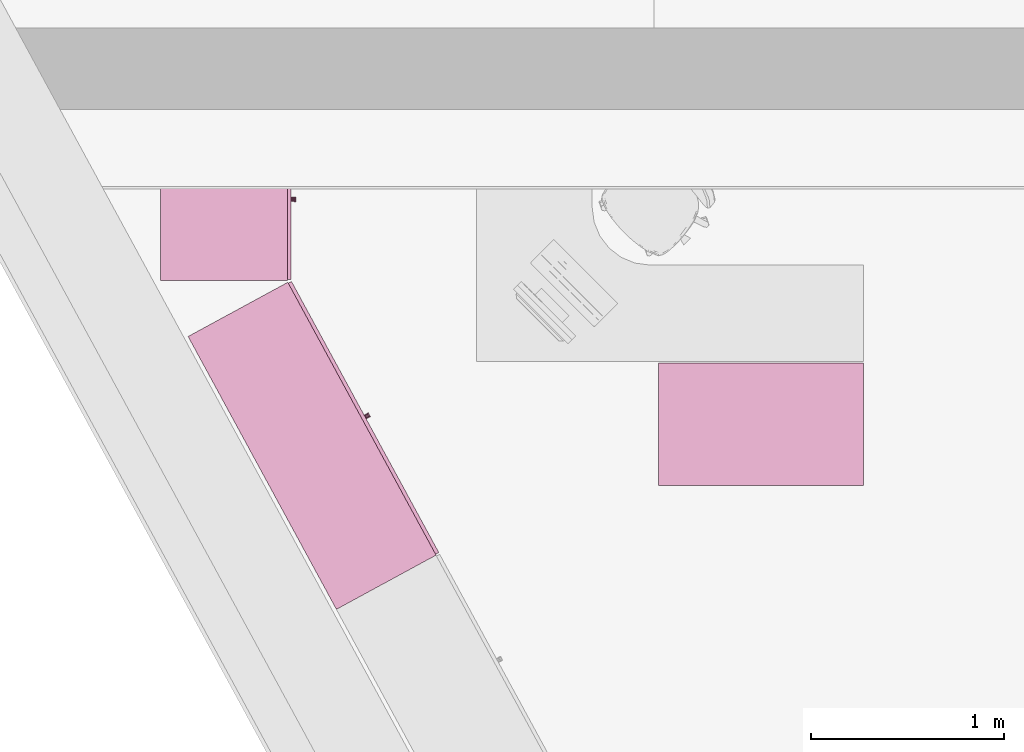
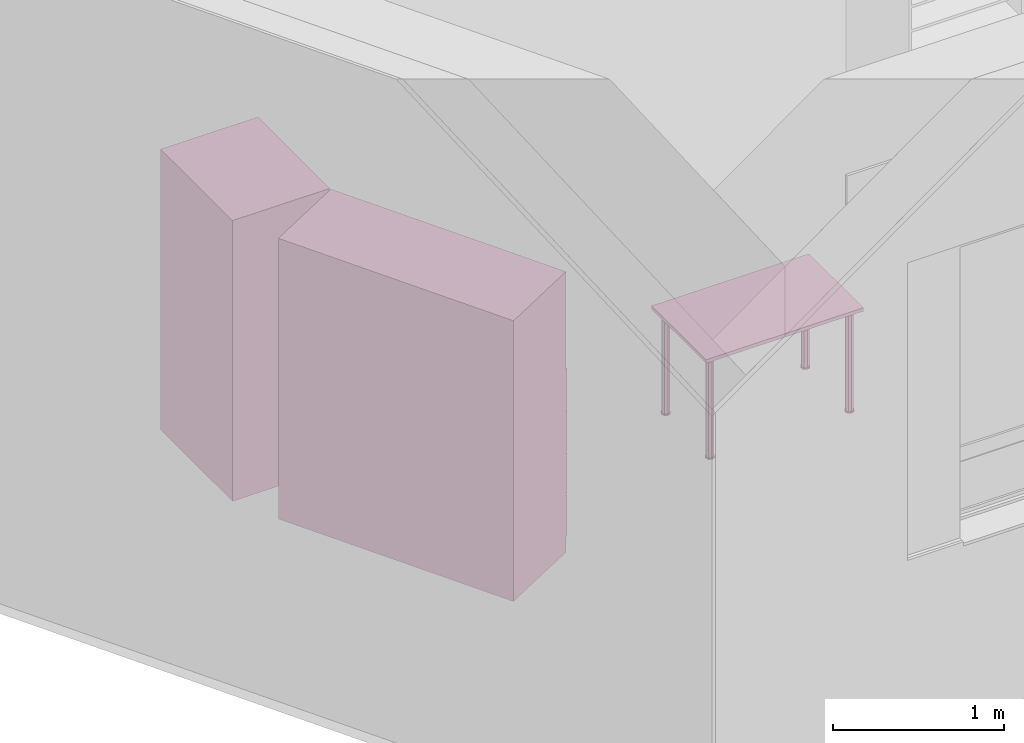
# One storey, part 151 of 194: 3 furnishings.
"""IFC2X3 building model written with IfcOpenShell, lengths in millimetres."""

from ifc_helpers import new_model, entity, si_unit, converted_unit, derived_unit, money_unit, direction, frame, origin_with_axes, place, context, subcontext, project, spatial, faceted_brep, type_object, element, save


model = new_model("IFC2X3")

# Units and contexts
model_context = context("Model", 3, precision=1e-05, world=origin_with_axes(), true_north=direction((0.0, 1.0)))
body_context = subcontext(model_context, "Body", "Model", "MODEL_VIEW")
ifc_project = project(units=[si_unit("LENGTHUNIT", "METRE", prefix="MILLI"), si_unit("AREAUNIT", "SQUARE_METRE"), si_unit("VOLUMEUNIT", "CUBIC_METRE"), converted_unit("PLANEANGLEUNIT", "DEGREE", entity("IfcPlaneAngleMeasure", 0.0174532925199), si_unit("PLANEANGLEUNIT", "RADIAN"), dimensions=[0, 0, 0, 0, 0, 0, 0]), si_unit("SOLIDANGLEUNIT", "STERADIAN"), money_unit("EUR"), converted_unit("TIMEUNIT", "Year", entity("IfcTimeMeasure", 31556926.0), si_unit("TIMEUNIT", "SECOND"), dimensions=[0, 0, 1, 0, 0, 0, 0]), si_unit("MASSUNIT", "GRAM", prefix="KILO"), si_unit("THERMODYNAMICTEMPERATUREUNIT", "DEGREE_CELSIUS"), si_unit("LUMINOUSINTENSITYUNIT", "LUMEN"), si_unit("ENERGYUNIT", "JOULE", prefix="MEGA"), derived_unit("THERMALCONDUCTANCEUNIT", [(si_unit("POWERUNIT", "WATT"), 1), (si_unit("LENGTHUNIT", "METRE"), -1), (si_unit("THERMODYNAMICTEMPERATUREUNIT", "KELVIN"), -1)]), derived_unit("SPECIFICHEATCAPACITYUNIT", [(si_unit("ENERGYUNIT", "JOULE"), 1), (si_unit("MASSUNIT", "GRAM", prefix="KILO"), -1), (si_unit("THERMODYNAMICTEMPERATUREUNIT", "KELVIN"), -1)]), derived_unit("MASSDENSITYUNIT", [(si_unit("MASSUNIT", "GRAM", prefix="KILO"), 1), (si_unit("VOLUMEUNIT", "CUBIC_METRE"), -1)])], contexts=[model_context])

# Site, building, storey
site_placement = place(None, origin_with_axes())
site = spatial("IfcSite", under=ifc_project, at=site_placement, Name="Site", CompositionType="ELEMENT")
building_placement = place(site_placement, origin_with_axes())
building = spatial("IfcBuilding", under=site, at=building_placement, Name="Building", CompositionType="ELEMENT")
storey_placement = place(building_placement, frame((0.0, 0.0, 3000.0), z_axis=(0.0, 0.0, 1.0), x_axis=(1.0, 0.0, 0.0)))
storey = spatial("IfcBuildingStorey", under=building, at=storey_placement, Name="2 KORRUS", CompositionType="ELEMENT", Elevation=3000.0)

# Furnishings
furnishing_element_type_1 = type_object("IfcFurnishingElementType", Name="Model Element 168")
furnishing_1_placement = place(storey_placement, frame((18872.0348911, 36645.5801862, 0.0), z_axis=(0.0, 0.0, 1.0), x_axis=(0.999999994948, -0.000100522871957, 0.0)))
element("IfcFurnishingElement", 1, at=furnishing_1_placement, inside=storey, type_object=furnishing_element_type_1, Name="FU - 007", context=body_context, shape_type="Brep", body=[
    faceted_brep([(0.0, 0.0, 725.0), (1060.56151738, 0.0, 725.0), (1060.56151738, 0.0, 750.0), (0.0, 0.0, 750.0), (0.0, 635.231502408, 725.0), (1060.56151738, 635.231502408, 725.0), (1060.56151738, 635.231502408, 750.0), (0.0, 635.231502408, 750.0)], [[[0, 1, 2, 3]], [[0, 4, 5, 1]], [[1, 5, 6, 2]], [[3, 2, 6, 7]], [[4, 0, 3, 7]], [[5, 4, 7, 6]]]),
    faceted_brep([(77.6776695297, 77.6776695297, 10.0), (85.0, 60.0, 10.0), (77.6776695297, 42.3223304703, 10.0), (60.0, 35.0, 10.0), (42.3223304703, 42.3223304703, 10.0), (35.0, 60.0, 10.0), (42.3223304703, 77.6776695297, 10.0), (60.0, 85.0, 10.0), (77.6776695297, 77.6776695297, 725.0), (85.0, 60.0, 725.0), (77.6776695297, 42.3223304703, 725.0), (60.0, 35.0, 725.0), (42.3223304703, 42.3223304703, 725.0), (35.0, 60.0, 725.0), (42.3223304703, 77.6776695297, 725.0), (60.0, 85.0, 725.0)], [[[0, 1, 2, 3, 4, 5, 6, 7]], [[1, 0, 8, 9]], [[2, 1, 9, 10]], [[3, 2, 10, 11]], [[4, 3, 11, 12]], [[5, 4, 12, 13]], [[6, 5, 13, 14]], [[7, 6, 14, 15]], [[0, 7, 15, 8]], [[8, 15, 14, 13, 12, 11, 10, 9]]]),
    faceted_brep([(81.2132034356, 81.2132034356, 0.0), (90.0, 60.0, 0.0), (81.2132034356, 38.7867965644, 0.0), (60.0, 30.0, 0.0), (38.7867965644, 38.7867965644, 0.0), (30.0, 60.0, 0.0), (38.7867965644, 81.2132034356, 0.0), (60.0, 90.0, 0.0), (81.2132034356, 81.2132034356, 10.0), (90.0, 60.0, 10.0), (81.2132034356, 38.7867965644, 10.0), (60.0, 30.0, 10.0), (38.7867965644, 38.7867965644, 10.0), (30.0, 60.0, 10.0), (38.7867965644, 81.2132034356, 10.0), (60.0, 90.0, 10.0)], [[[0, 1, 2, 3, 4, 5, 6, 7]], [[1, 0, 8, 9]], [[2, 1, 9, 10]], [[3, 2, 10, 11]], [[4, 3, 11, 12]], [[5, 4, 12, 13]], [[6, 5, 13, 14]], [[7, 6, 14, 15]], [[0, 7, 15, 8]], [[8, 15, 14, 13, 12, 11, 10, 9]]]),
    faceted_brep([(77.6776695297, 592.909171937, 10.0), (85.0, 575.231502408, 10.0), (77.6776695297, 557.553832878, 10.0), (60.0, 550.231502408, 10.0), (42.3223304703, 557.553832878, 10.0), (35.0, 575.231502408, 10.0), (42.3223304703, 592.909171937, 10.0), (60.0, 600.231502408, 10.0), (77.6776695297, 592.909171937, 725.0), (85.0, 575.231502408, 725.0), (77.6776695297, 557.553832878, 725.0), (60.0, 550.231502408, 725.0), (42.3223304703, 557.553832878, 725.0), (35.0, 575.231502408, 725.0), (42.3223304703, 592.909171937, 725.0), (60.0, 600.231502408, 725.0)], [[[0, 1, 2, 3, 4, 5, 6, 7]], [[1, 0, 8, 9]], [[2, 1, 9, 10]], [[3, 2, 10, 11]], [[4, 3, 11, 12]], [[5, 4, 12, 13]], [[6, 5, 13, 14]], [[7, 6, 14, 15]], [[0, 7, 15, 8]], [[8, 15, 14, 13, 12, 11, 10, 9]]]),
    faceted_brep([(81.2132034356, 596.444705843, 0.0), (90.0, 575.231502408, 0.0), (81.2132034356, 554.018298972, 0.0), (60.0, 545.231502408, 0.0), (38.7867965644, 554.018298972, 0.0), (30.0, 575.231502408, 0.0), (38.7867965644, 596.444705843, 0.0), (60.0, 605.231502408, 0.0), (81.2132034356, 596.444705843, 10.0), (90.0, 575.231502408, 10.0), (81.2132034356, 554.018298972, 10.0), (60.0, 545.231502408, 10.0), (38.7867965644, 554.018298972, 10.0), (30.0, 575.231502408, 10.0), (38.7867965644, 596.444705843, 10.0), (60.0, 605.231502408, 10.0)], [[[0, 1, 2, 3, 4, 5, 6, 7]], [[1, 0, 8, 9]], [[2, 1, 9, 10]], [[3, 2, 10, 11]], [[4, 3, 11, 12]], [[5, 4, 12, 13]], [[6, 5, 13, 14]], [[7, 6, 14, 15]], [[0, 7, 15, 8]], [[8, 15, 14, 13, 12, 11, 10, 9]]]),
    faceted_brep([(1018.23918691, 77.6776695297, 10.0), (1025.56151738, 60.0, 10.0), (1018.23918691, 42.3223304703, 10.0), (1000.56151738, 35.0, 10.0), (982.883847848, 42.3223304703, 10.0), (975.561517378, 60.0, 10.0), (982.883847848, 77.6776695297, 10.0), (1000.56151738, 85.0, 10.0), (1018.23918691, 77.6776695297, 725.0), (1025.56151738, 60.0, 725.0), (1018.23918691, 42.3223304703, 725.0), (1000.56151738, 35.0, 725.0), (982.883847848, 42.3223304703, 725.0), (975.561517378, 60.0, 725.0), (982.883847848, 77.6776695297, 725.0), (1000.56151738, 85.0, 725.0)], [[[0, 1, 2, 3, 4, 5, 6, 7]], [[1, 0, 8, 9]], [[2, 1, 9, 10]], [[3, 2, 10, 11]], [[4, 3, 11, 12]], [[5, 4, 12, 13]], [[6, 5, 13, 14]], [[7, 6, 14, 15]], [[0, 7, 15, 8]], [[8, 15, 14, 13, 12, 11, 10, 9]]]),
    faceted_brep([(1021.77472081, 81.2132034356, 0.0), (1030.56151738, 60.0, 0.0), (1021.77472081, 38.7867965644, 0.0), (1000.56151738, 30.0, 0.0), (979.348313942, 38.7867965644, 0.0), (970.561517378, 60.0, 0.0), (979.348313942, 81.2132034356, 0.0), (1000.56151738, 90.0, 0.0), (1021.77472081, 81.2132034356, 10.0), (1030.56151738, 60.0, 10.0), (1021.77472081, 38.7867965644, 10.0), (1000.56151738, 30.0, 10.0), (979.348313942, 38.7867965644, 10.0), (970.561517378, 60.0, 10.0), (979.348313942, 81.2132034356, 10.0), (1000.56151738, 90.0, 10.0)], [[[0, 1, 2, 3, 4, 5, 6, 7]], [[1, 0, 8, 9]], [[2, 1, 9, 10]], [[3, 2, 10, 11]], [[4, 3, 11, 12]], [[5, 4, 12, 13]], [[6, 5, 13, 14]], [[7, 6, 14, 15]], [[0, 7, 15, 8]], [[8, 15, 14, 13, 12, 11, 10, 9]]]),
    faceted_brep([(1018.23918691, 592.909171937, 10.0), (1025.56151738, 575.231502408, 10.0), (1018.23918691, 557.553832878, 10.0), (1000.56151738, 550.231502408, 10.0), (982.883847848, 557.553832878, 10.0), (975.561517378, 575.231502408, 10.0), (982.883847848, 592.909171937, 10.0), (1000.56151738, 600.231502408, 10.0), (1018.23918691, 592.909171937, 725.0), (1025.56151738, 575.231502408, 725.0), (1018.23918691, 557.553832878, 725.0), (1000.56151738, 550.231502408, 725.0), (982.883847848, 557.553832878, 725.0), (975.561517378, 575.231502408, 725.0), (982.883847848, 592.909171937, 725.0), (1000.56151738, 600.231502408, 725.0)], [[[0, 1, 2, 3, 4, 5, 6, 7]], [[1, 0, 8, 9]], [[2, 1, 9, 10]], [[3, 2, 10, 11]], [[4, 3, 11, 12]], [[5, 4, 12, 13]], [[6, 5, 13, 14]], [[7, 6, 14, 15]], [[0, 7, 15, 8]], [[8, 15, 14, 13, 12, 11, 10, 9]]]),
    faceted_brep([(1021.77472081, 596.444705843, 0.0), (1030.56151738, 575.231502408, 0.0), (1021.77472081, 554.018298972, 0.0), (1000.56151738, 545.231502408, 0.0), (979.348313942, 554.018298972, 0.0), (970.561517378, 575.231502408, 0.0), (979.348313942, 596.444705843, 0.0), (1000.56151738, 605.231502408, 0.0), (1021.77472081, 596.444705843, 10.0), (1030.56151738, 575.231502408, 10.0), (1021.77472081, 554.018298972, 10.0), (1000.56151738, 545.231502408, 10.0), (979.348313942, 554.018298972, 10.0), (970.561517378, 575.231502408, 10.0), (979.348313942, 596.444705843, 10.0), (1000.56151738, 605.231502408, 10.0)], [[[0, 1, 2, 3, 4, 5, 6, 7]], [[1, 0, 8, 9]], [[2, 1, 9, 10]], [[3, 2, 10, 11]], [[4, 3, 11, 12]], [[5, 4, 12, 13]], [[6, 5, 13, 14]], [[7, 6, 14, 15]], [[0, 7, 15, 8]], [[8, 15, 14, 13, 12, 11, 10, 9]]]),
])
furnishing_element_type_2 = type_object("IfcFurnishingElementType", Name="Model Element 166")
furnishing_2_placement = place(storey_placement, frame((16969.0604962, 37707.7001699, 0.0), z_axis=(0.0, 0.0, 1.0), x_axis=(0.000642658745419, 0.999999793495, 0.0)))
element("IfcFurnishingElement", 2, at=furnishing_2_placement, inside=storey, type_object=furnishing_element_type_2, Name="FU - 001", context=body_context, shape_type="Brep", body=[
    faceted_brep([(839.960739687, 19.0, 0.0), (0.0, 19.0, 0.0), (0.0, 675.227995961, 0.0), (839.960739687, 675.227995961, 0.0), (839.960739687, 19.0, 100.0), (0.0, 19.0, 100.0), (0.0, 675.227995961, 100.0), (839.960739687, 675.227995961, 100.0)], [[[0, 1, 2, 3]], [[1, 0, 4, 5]], [[2, 1, 5, 6]], [[3, 2, 6, 7]], [[0, 3, 7, 4]], [[5, 4, 7, 6]]]),
    faceted_brep([(19.0, 675.227995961, 119.0), (19.0, 656.227995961, 119.0), (19.0, 656.227995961, 1981.0), (19.0, 675.227995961, 1981.0), (820.960739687, 675.227995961, 119.0), (820.960739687, 656.227995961, 119.0), (820.960739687, 656.227995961, 1981.0), (820.960739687, 675.227995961, 1981.0)], [[[0, 1, 2, 3]], [[0, 4, 5, 1]], [[1, 5, 6, 2]], [[3, 2, 6, 7]], [[4, 0, 3, 7]], [[5, 4, 7, 6]]]),
    faceted_brep([(839.960739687, 19.0, 100.0), (820.960739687, 19.0, 100.0), (820.960739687, 675.227995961, 100.0), (839.960739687, 675.227995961, 100.0), (839.960739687, 19.0, 2000.0), (820.960739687, 19.0, 2000.0), (820.960739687, 675.227995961, 2000.0), (839.960739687, 675.227995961, 2000.0)], [[[0, 1, 2, 3]], [[1, 0, 4, 5]], [[2, 1, 5, 6]], [[3, 2, 6, 7]], [[0, 3, 7, 4]], [[5, 4, 7, 6]]]),
    faceted_brep([(19.0, 19.0, 100.0), (0.0, 19.0, 100.0), (0.0, 675.227995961, 100.0), (19.0, 675.227995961, 100.0), (19.0, 19.0, 2000.0), (0.0, 19.0, 2000.0), (0.0, 675.227995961, 2000.0), (19.0, 675.227995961, 2000.0)], [[[0, 1, 2, 3]], [[1, 0, 4, 5]], [[2, 1, 5, 6]], [[3, 2, 6, 7]], [[0, 3, 7, 4]], [[5, 4, 7, 6]]]),
    faceted_brep([(820.960739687, 19.0, 100.0), (19.0, 19.0, 100.0), (19.0, 675.227995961, 100.0), (820.960739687, 675.227995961, 100.0), (820.960739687, 19.0, 119.0), (19.0, 19.0, 119.0), (19.0, 675.227995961, 119.0), (820.960739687, 675.227995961, 119.0)], [[[0, 1, 2, 3]], [[1, 0, 4, 5]], [[2, 1, 5, 6]], [[3, 2, 6, 7]], [[0, 3, 7, 4]], [[5, 4, 7, 6]]]),
    faceted_brep([(820.960739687, 19.0, 1981.0), (19.0, 19.0, 1981.0), (19.0, 675.227995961, 1981.0), (820.960739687, 675.227995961, 1981.0), (820.960739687, 19.0, 2000.0), (19.0, 19.0, 2000.0), (19.0, 675.227995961, 2000.0), (820.960739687, 675.227995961, 2000.0)], [[[0, 1, 2, 3]], [[1, 0, 4, 5]], [[2, 1, 5, 6]], [[3, 2, 6, 7]], [[0, 3, 7, 4]], [[5, 4, 7, 6]]]),
    faceted_brep([(5.0, 19.0, 105.0), (834.960739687, 19.0, 105.0), (834.960739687, 0.0, 105.0), (5.0, 0.0, 105.0), (5.0, 19.0, 395.0), (834.960739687, 19.0, 395.0), (834.960739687, 0.0, 395.0), (5.0, 0.0, 395.0)], [[[0, 1, 2, 3]], [[0, 4, 5, 1]], [[1, 5, 6, 2]], [[3, 2, 6, 7]], [[4, 0, 3, 7]], [[5, 4, 7, 6]]]),
    faceted_brep([(430.372674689, 0.0, 244.0), (425.980369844, 0.0, 239.607695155), (419.980369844, 0.0, 238.0), (413.980369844, 0.0, 239.607695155), (409.588064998, 0.0, 244.0), (407.980369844, 0.0, 250.0), (409.588064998, 0.0, 256.0), (413.980369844, 0.0, 260.392304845), (419.980369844, 0.0, 262.0), (425.980369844, 0.0, 260.392304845), (430.372674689, 0.0, 256.0), (431.980369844, 0.0, 250.0), (430.372674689, -25.0, 244.0), (425.980369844, -25.0, 239.607695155), (419.980369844, -25.0, 238.0), (413.980369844, -25.0, 239.607695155), (409.588064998, -25.0, 244.0), (407.980369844, -25.0, 250.0), (409.588064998, -25.0, 256.0), (413.980369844, -25.0, 260.392304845), (419.980369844, -25.0, 262.0), (425.980369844, -25.0, 260.392304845), (430.372674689, -25.0, 256.0), (431.980369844, -25.0, 250.0)], [[[0, 1, 2, 3, 4, 5, 6, 7, 8, 9, 10, 11]], [[1, 0, 12, 13]], [[2, 1, 13, 14]], [[3, 2, 14, 15]], [[4, 3, 15, 16]], [[5, 4, 16, 17]], [[6, 5, 17, 18]], [[7, 6, 18, 19]], [[8, 7, 19, 20]], [[9, 8, 20, 21]], [[10, 9, 21, 22]], [[11, 10, 22, 23]], [[0, 11, 23, 12]], [[12, 23, 22, 21, 20, 19, 18, 17, 16, 15, 14, 13]]]),
    faceted_brep([(5.0, 19.0, 405.0), (834.960739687, 19.0, 405.0), (834.960739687, 0.0, 405.0), (5.0, 0.0, 405.0), (5.0, 19.0, 695.0), (834.960739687, 19.0, 695.0), (834.960739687, 0.0, 695.0), (5.0, 0.0, 695.0)], [[[0, 1, 2, 3]], [[0, 4, 5, 1]], [[1, 5, 6, 2]], [[3, 2, 6, 7]], [[4, 0, 3, 7]], [[5, 4, 7, 6]]]),
    faceted_brep([(430.372674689, 0.0, 544.0), (425.980369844, 0.0, 539.607695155), (419.980369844, 0.0, 538.0), (413.980369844, 0.0, 539.607695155), (409.588064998, 0.0, 544.0), (407.980369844, 0.0, 550.0), (409.588064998, 0.0, 556.0), (413.980369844, 0.0, 560.392304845), (419.980369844, 0.0, 562.0), (425.980369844, 0.0, 560.392304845), (430.372674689, 0.0, 556.0), (431.980369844, 0.0, 550.0), (430.372674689, -25.0, 544.0), (425.980369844, -25.0, 539.607695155), (419.980369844, -25.0, 538.0), (413.980369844, -25.0, 539.607695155), (409.588064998, -25.0, 544.0), (407.980369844, -25.0, 550.0), (409.588064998, -25.0, 556.0), (413.980369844, -25.0, 560.392304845), (419.980369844, -25.0, 562.0), (425.980369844, -25.0, 560.392304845), (430.372674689, -25.0, 556.0), (431.980369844, -25.0, 550.0)], [[[0, 1, 2, 3, 4, 5, 6, 7, 8, 9, 10, 11]], [[1, 0, 12, 13]], [[2, 1, 13, 14]], [[3, 2, 14, 15]], [[4, 3, 15, 16]], [[5, 4, 16, 17]], [[6, 5, 17, 18]], [[7, 6, 18, 19]], [[8, 7, 19, 20]], [[9, 8, 20, 21]], [[10, 9, 21, 22]], [[11, 10, 22, 23]], [[0, 11, 23, 12]], [[12, 23, 22, 21, 20, 19, 18, 17, 16, 15, 14, 13]]]),
    faceted_brep([(5.0, 19.0, 705.0), (834.960739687, 19.0, 705.0), (834.960739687, 0.0, 705.0), (5.0, 0.0, 705.0), (5.0, 19.0, 995.0), (834.960739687, 19.0, 995.0), (834.960739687, 0.0, 995.0), (5.0, 0.0, 995.0)], [[[0, 1, 2, 3]], [[0, 4, 5, 1]], [[1, 5, 6, 2]], [[3, 2, 6, 7]], [[4, 0, 3, 7]], [[5, 4, 7, 6]]]),
    faceted_brep([(430.372674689, 0.0, 844.0), (425.980369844, 0.0, 839.607695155), (419.980369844, 0.0, 838.0), (413.980369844, 0.0, 839.607695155), (409.588064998, 0.0, 844.0), (407.980369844, 0.0, 850.0), (409.588064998, 0.0, 856.0), (413.980369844, 0.0, 860.392304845), (419.980369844, 0.0, 862.0), (425.980369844, 0.0, 860.392304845), (430.372674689, 0.0, 856.0), (431.980369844, 0.0, 850.0), (430.372674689, -25.0, 844.0), (425.980369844, -25.0, 839.607695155), (419.980369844, -25.0, 838.0), (413.980369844, -25.0, 839.607695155), (409.588064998, -25.0, 844.0), (407.980369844, -25.0, 850.0), (409.588064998, -25.0, 856.0), (413.980369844, -25.0, 860.392304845), (419.980369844, -25.0, 862.0), (425.980369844, -25.0, 860.392304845), (430.372674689, -25.0, 856.0), (431.980369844, -25.0, 850.0)], [[[0, 1, 2, 3, 4, 5, 6, 7, 8, 9, 10, 11]], [[1, 0, 12, 13]], [[2, 1, 13, 14]], [[3, 2, 14, 15]], [[4, 3, 15, 16]], [[5, 4, 16, 17]], [[6, 5, 17, 18]], [[7, 6, 18, 19]], [[8, 7, 19, 20]], [[9, 8, 20, 21]], [[10, 9, 21, 22]], [[11, 10, 22, 23]], [[0, 11, 23, 12]], [[12, 23, 22, 21, 20, 19, 18, 17, 16, 15, 14, 13]]]),
    faceted_brep([(5.0, 19.0, 1005.0), (834.960739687, 19.0, 1005.0), (834.960739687, 0.0, 1005.0), (5.0, 0.0, 1005.0), (5.0, 19.0, 1295.0), (834.960739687, 19.0, 1295.0), (834.960739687, 0.0, 1295.0), (5.0, 0.0, 1295.0)], [[[0, 1, 2, 3]], [[0, 4, 5, 1]], [[1, 5, 6, 2]], [[3, 2, 6, 7]], [[4, 0, 3, 7]], [[5, 4, 7, 6]]]),
    faceted_brep([(430.372674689, 0.0, 1144.0), (425.980369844, 0.0, 1139.60769515), (419.980369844, 0.0, 1138.0), (413.980369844, 0.0, 1139.60769515), (409.588064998, 0.0, 1144.0), (407.980369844, 0.0, 1150.0), (409.588064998, 0.0, 1156.0), (413.980369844, 0.0, 1160.39230485), (419.980369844, 0.0, 1162.0), (425.980369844, 0.0, 1160.39230485), (430.372674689, 0.0, 1156.0), (431.980369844, 0.0, 1150.0), (430.372674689, -25.0, 1144.0), (425.980369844, -25.0, 1139.60769515), (419.980369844, -25.0, 1138.0), (413.980369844, -25.0, 1139.60769515), (409.588064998, -25.0, 1144.0), (407.980369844, -25.0, 1150.0), (409.588064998, -25.0, 1156.0), (413.980369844, -25.0, 1160.39230485), (419.980369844, -25.0, 1162.0), (425.980369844, -25.0, 1160.39230485), (430.372674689, -25.0, 1156.0), (431.980369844, -25.0, 1150.0)], [[[0, 1, 2, 3, 4, 5, 6, 7, 8, 9, 10, 11]], [[1, 0, 12, 13]], [[2, 1, 13, 14]], [[3, 2, 14, 15]], [[4, 3, 15, 16]], [[5, 4, 16, 17]], [[6, 5, 17, 18]], [[7, 6, 18, 19]], [[8, 7, 19, 20]], [[9, 8, 20, 21]], [[10, 9, 21, 22]], [[11, 10, 22, 23]], [[0, 11, 23, 12]], [[12, 23, 22, 21, 20, 19, 18, 17, 16, 15, 14, 13]]]),
    faceted_brep([(19.0, 19.0, 390.5), (820.960739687, 19.0, 390.5), (820.960739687, 19.0, 409.5), (19.0, 19.0, 409.5), (19.0, 656.227995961, 390.5), (820.960739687, 656.227995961, 390.5), (820.960739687, 656.227995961, 409.5), (19.0, 656.227995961, 409.5)], [[[0, 1, 2, 3]], [[0, 4, 5, 1]], [[1, 5, 6, 2]], [[3, 2, 6, 7]], [[4, 0, 3, 7]], [[5, 4, 7, 6]]]),
    faceted_brep([(19.0, 19.0, 690.5), (820.960739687, 19.0, 690.5), (820.960739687, 19.0, 709.5), (19.0, 19.0, 709.5), (19.0, 656.227995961, 690.5), (820.960739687, 656.227995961, 690.5), (820.960739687, 656.227995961, 709.5), (19.0, 656.227995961, 709.5)], [[[0, 1, 2, 3]], [[0, 4, 5, 1]], [[1, 5, 6, 2]], [[3, 2, 6, 7]], [[4, 0, 3, 7]], [[5, 4, 7, 6]]]),
    faceted_brep([(19.0, 19.0, 990.5), (820.960739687, 19.0, 990.5), (820.960739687, 19.0, 1009.5), (19.0, 19.0, 1009.5), (19.0, 656.227995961, 990.5), (820.960739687, 656.227995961, 990.5), (820.960739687, 656.227995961, 1009.5), (19.0, 656.227995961, 1009.5)], [[[0, 1, 2, 3]], [[0, 4, 5, 1]], [[1, 5, 6, 2]], [[3, 2, 6, 7]], [[4, 0, 3, 7]], [[5, 4, 7, 6]]]),
    faceted_brep([(19.0, 19.0, 1290.5), (820.960739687, 19.0, 1290.5), (820.960739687, 19.0, 1309.5), (19.0, 19.0, 1309.5), (19.0, 656.227995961, 1290.5), (820.960739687, 656.227995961, 1290.5), (820.960739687, 656.227995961, 1309.5), (19.0, 656.227995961, 1309.5)], [[[0, 1, 2, 3]], [[0, 4, 5, 1]], [[1, 5, 6, 2]], [[3, 2, 6, 7]], [[4, 0, 3, 7]], [[5, 4, 7, 6]]]),
    faceted_brep([(820.960739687, 19.0, 1463.125), (19.0, 19.0, 1463.125), (19.0, 656.227995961, 1463.125), (820.960739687, 656.227995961, 1463.125), (820.960739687, 19.0, 1482.125), (19.0, 19.0, 1482.125), (19.0, 656.227995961, 1482.125), (820.960739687, 656.227995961, 1482.125)], [[[0, 1, 2, 3]], [[1, 0, 4, 5]], [[2, 1, 5, 6]], [[3, 2, 6, 7]], [[0, 3, 7, 4]], [[5, 4, 7, 6]]]),
    faceted_brep([(820.960739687, 19.0, 1635.75), (19.0, 19.0, 1635.75), (19.0, 656.227995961, 1635.75), (820.960739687, 656.227995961, 1635.75), (820.960739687, 19.0, 1654.75), (19.0, 19.0, 1654.75), (19.0, 656.227995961, 1654.75), (820.960739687, 656.227995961, 1654.75)], [[[0, 1, 2, 3]], [[1, 0, 4, 5]], [[2, 1, 5, 6]], [[3, 2, 6, 7]], [[0, 3, 7, 4]], [[5, 4, 7, 6]]]),
    faceted_brep([(820.960739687, 19.0, 1808.375), (19.0, 19.0, 1808.375), (19.0, 656.227995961, 1808.375), (820.960739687, 656.227995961, 1808.375), (820.960739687, 19.0, 1827.375), (19.0, 19.0, 1827.375), (19.0, 656.227995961, 1827.375), (820.960739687, 656.227995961, 1827.375)], [[[0, 1, 2, 3]], [[1, 0, 4, 5]], [[2, 1, 5, 6]], [[3, 2, 6, 7]], [[0, 3, 7, 4]], [[5, 4, 7, 6]]]),
])
furnishing_element_type_3 = type_object("IfcFurnishingElementType", Name="Model Element 165")
furnishing_3_placement = place(storey_placement, frame((17736.9413453, 36295.0276461, 0.0), z_axis=(0.0, 0.0, 1.0), x_axis=(-0.477572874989, 0.878592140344, 0.0)))
element("IfcFurnishingElement", 3, at=furnishing_3_placement, inside=storey, type_object=furnishing_element_type_3, Name="FU - 001", context=body_context, shape_type="Brep", body=[
    faceted_brep([(1607.88204135, 19.0, 0.0), (0.0, 19.0, 0.0), (0.0, 606.375814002, 0.0), (1607.88204135, 606.375814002, 0.0), (1607.88204135, 19.0, 100.0), (0.0, 19.0, 100.0), (0.0, 606.375814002, 100.0), (1607.88204135, 606.375814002, 100.0)], [[[0, 1, 2, 3]], [[1, 0, 4, 5]], [[2, 1, 5, 6]], [[3, 2, 6, 7]], [[0, 3, 7, 4]], [[5, 4, 7, 6]]]),
    faceted_brep([(19.0, 606.375814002, 119.0), (19.0, 587.375814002, 119.0), (19.0, 587.375814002, 1981.0), (19.0, 606.375814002, 1981.0), (1588.88204135, 606.375814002, 119.0), (1588.88204135, 587.375814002, 119.0), (1588.88204135, 587.375814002, 1981.0), (1588.88204135, 606.375814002, 1981.0)], [[[0, 1, 2, 3]], [[0, 4, 5, 1]], [[1, 5, 6, 2]], [[3, 2, 6, 7]], [[4, 0, 3, 7]], [[5, 4, 7, 6]]]),
    faceted_brep([(1607.88204135, 19.0, 100.0), (1588.88204135, 19.0, 100.0), (1588.88204135, 606.375814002, 100.0), (1607.88204135, 606.375814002, 100.0), (1607.88204135, 19.0, 2000.0), (1588.88204135, 19.0, 2000.0), (1588.88204135, 606.375814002, 2000.0), (1607.88204135, 606.375814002, 2000.0)], [[[0, 1, 2, 3]], [[1, 0, 4, 5]], [[2, 1, 5, 6]], [[3, 2, 6, 7]], [[0, 3, 7, 4]], [[5, 4, 7, 6]]]),
    faceted_brep([(19.0, 19.0, 100.0), (0.0, 19.0, 100.0), (0.0, 606.375814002, 100.0), (19.0, 606.375814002, 100.0), (19.0, 19.0, 2000.0), (0.0, 19.0, 2000.0), (0.0, 606.375814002, 2000.0), (19.0, 606.375814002, 2000.0)], [[[0, 1, 2, 3]], [[1, 0, 4, 5]], [[2, 1, 5, 6]], [[3, 2, 6, 7]], [[0, 3, 7, 4]], [[5, 4, 7, 6]]]),
    faceted_brep([(1588.88204135, 19.0, 100.0), (19.0, 19.0, 100.0), (19.0, 606.375814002, 100.0), (1588.88204135, 606.375814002, 100.0), (1588.88204135, 19.0, 119.0), (19.0, 19.0, 119.0), (19.0, 606.375814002, 119.0), (1588.88204135, 606.375814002, 119.0)], [[[0, 1, 2, 3]], [[1, 0, 4, 5]], [[2, 1, 5, 6]], [[3, 2, 6, 7]], [[0, 3, 7, 4]], [[5, 4, 7, 6]]]),
    faceted_brep([(1588.88204135, 19.0, 1981.0), (19.0, 19.0, 1981.0), (19.0, 606.375814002, 1981.0), (1588.88204135, 606.375814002, 1981.0), (1588.88204135, 19.0, 2000.0), (19.0, 19.0, 2000.0), (19.0, 606.375814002, 2000.0), (1588.88204135, 606.375814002, 2000.0)], [[[0, 1, 2, 3]], [[1, 0, 4, 5]], [[2, 1, 5, 6]], [[3, 2, 6, 7]], [[0, 3, 7, 4]], [[5, 4, 7, 6]]]),
    faceted_brep([(5.0, 19.0, 105.0), (1602.88204135, 19.0, 105.0), (1602.88204135, 0.0, 105.0), (5.0, 0.0, 105.0), (5.0, 19.0, 395.0), (1602.88204135, 19.0, 395.0), (1602.88204135, 0.0, 395.0), (5.0, 0.0, 395.0)], [[[0, 1, 2, 3]], [[0, 4, 5, 1]], [[1, 5, 6, 2]], [[3, 2, 6, 7]], [[4, 0, 3, 7]], [[5, 4, 7, 6]]]),
    faceted_brep([(814.333325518, 0.0, 244.0), (809.941020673, 0.0, 239.607695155), (803.941020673, 0.0, 238.0), (797.941020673, 0.0, 239.607695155), (793.548715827, 0.0, 244.0), (791.941020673, 0.0, 250.0), (793.548715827, 0.0, 256.0), (797.941020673, 0.0, 260.392304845), (803.941020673, 0.0, 262.0), (809.941020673, 0.0, 260.392304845), (814.333325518, 0.0, 256.0), (815.941020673, 0.0, 250.0), (814.333325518, -25.0, 244.0), (809.941020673, -25.0, 239.607695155), (803.941020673, -25.0, 238.0), (797.941020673, -25.0, 239.607695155), (793.548715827, -25.0, 244.0), (791.941020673, -25.0, 250.0), (793.548715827, -25.0, 256.0), (797.941020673, -25.0, 260.392304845), (803.941020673, -25.0, 262.0), (809.941020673, -25.0, 260.392304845), (814.333325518, -25.0, 256.0), (815.941020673, -25.0, 250.0)], [[[0, 1, 2, 3, 4, 5, 6, 7, 8, 9, 10, 11]], [[1, 0, 12, 13]], [[2, 1, 13, 14]], [[3, 2, 14, 15]], [[4, 3, 15, 16]], [[5, 4, 16, 17]], [[6, 5, 17, 18]], [[7, 6, 18, 19]], [[8, 7, 19, 20]], [[9, 8, 20, 21]], [[10, 9, 21, 22]], [[11, 10, 22, 23]], [[0, 11, 23, 12]], [[12, 23, 22, 21, 20, 19, 18, 17, 16, 15, 14, 13]]]),
    faceted_brep([(5.0, 19.0, 405.0), (1602.88204135, 19.0, 405.0), (1602.88204135, 0.0, 405.0), (5.0, 0.0, 405.0), (5.0, 19.0, 695.0), (1602.88204135, 19.0, 695.0), (1602.88204135, 0.0, 695.0), (5.0, 0.0, 695.0)], [[[0, 1, 2, 3]], [[0, 4, 5, 1]], [[1, 5, 6, 2]], [[3, 2, 6, 7]], [[4, 0, 3, 7]], [[5, 4, 7, 6]]]),
    faceted_brep([(814.333325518, 0.0, 544.0), (809.941020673, 0.0, 539.607695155), (803.941020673, 0.0, 538.0), (797.941020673, 0.0, 539.607695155), (793.548715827, 0.0, 544.0), (791.941020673, 0.0, 550.0), (793.548715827, 0.0, 556.0), (797.941020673, 0.0, 560.392304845), (803.941020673, 0.0, 562.0), (809.941020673, 0.0, 560.392304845), (814.333325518, 0.0, 556.0), (815.941020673, 0.0, 550.0), (814.333325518, -25.0, 544.0), (809.941020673, -25.0, 539.607695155), (803.941020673, -25.0, 538.0), (797.941020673, -25.0, 539.607695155), (793.548715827, -25.0, 544.0), (791.941020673, -25.0, 550.0), (793.548715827, -25.0, 556.0), (797.941020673, -25.0, 560.392304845), (803.941020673, -25.0, 562.0), (809.941020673, -25.0, 560.392304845), (814.333325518, -25.0, 556.0), (815.941020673, -25.0, 550.0)], [[[0, 1, 2, 3, 4, 5, 6, 7, 8, 9, 10, 11]], [[1, 0, 12, 13]], [[2, 1, 13, 14]], [[3, 2, 14, 15]], [[4, 3, 15, 16]], [[5, 4, 16, 17]], [[6, 5, 17, 18]], [[7, 6, 18, 19]], [[8, 7, 19, 20]], [[9, 8, 20, 21]], [[10, 9, 21, 22]], [[11, 10, 22, 23]], [[0, 11, 23, 12]], [[12, 23, 22, 21, 20, 19, 18, 17, 16, 15, 14, 13]]]),
    faceted_brep([(5.0, 19.0, 705.0), (1602.88204135, 19.0, 705.0), (1602.88204135, 0.0, 705.0), (5.0, 0.0, 705.0), (5.0, 19.0, 995.0), (1602.88204135, 19.0, 995.0), (1602.88204135, 0.0, 995.0), (5.0, 0.0, 995.0)], [[[0, 1, 2, 3]], [[0, 4, 5, 1]], [[1, 5, 6, 2]], [[3, 2, 6, 7]], [[4, 0, 3, 7]], [[5, 4, 7, 6]]]),
    faceted_brep([(814.333325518, 0.0, 844.0), (809.941020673, 0.0, 839.607695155), (803.941020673, 0.0, 838.0), (797.941020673, 0.0, 839.607695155), (793.548715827, 0.0, 844.0), (791.941020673, 0.0, 850.0), (793.548715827, 0.0, 856.0), (797.941020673, 0.0, 860.392304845), (803.941020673, 0.0, 862.0), (809.941020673, 0.0, 860.392304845), (814.333325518, 0.0, 856.0), (815.941020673, 0.0, 850.0), (814.333325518, -25.0, 844.0), (809.941020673, -25.0, 839.607695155), (803.941020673, -25.0, 838.0), (797.941020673, -25.0, 839.607695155), (793.548715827, -25.0, 844.0), (791.941020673, -25.0, 850.0), (793.548715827, -25.0, 856.0), (797.941020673, -25.0, 860.392304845), (803.941020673, -25.0, 862.0), (809.941020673, -25.0, 860.392304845), (814.333325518, -25.0, 856.0), (815.941020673, -25.0, 850.0)], [[[0, 1, 2, 3, 4, 5, 6, 7, 8, 9, 10, 11]], [[1, 0, 12, 13]], [[2, 1, 13, 14]], [[3, 2, 14, 15]], [[4, 3, 15, 16]], [[5, 4, 16, 17]], [[6, 5, 17, 18]], [[7, 6, 18, 19]], [[8, 7, 19, 20]], [[9, 8, 20, 21]], [[10, 9, 21, 22]], [[11, 10, 22, 23]], [[0, 11, 23, 12]], [[12, 23, 22, 21, 20, 19, 18, 17, 16, 15, 14, 13]]]),
    faceted_brep([(5.0, 19.0, 1005.0), (1602.88204135, 19.0, 1005.0), (1602.88204135, 0.0, 1005.0), (5.0, 0.0, 1005.0), (5.0, 19.0, 1295.0), (1602.88204135, 19.0, 1295.0), (1602.88204135, 0.0, 1295.0), (5.0, 0.0, 1295.0)], [[[0, 1, 2, 3]], [[0, 4, 5, 1]], [[1, 5, 6, 2]], [[3, 2, 6, 7]], [[4, 0, 3, 7]], [[5, 4, 7, 6]]]),
    faceted_brep([(814.333325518, 0.0, 1144.0), (809.941020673, 0.0, 1139.60769515), (803.941020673, 0.0, 1138.0), (797.941020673, 0.0, 1139.60769515), (793.548715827, 0.0, 1144.0), (791.941020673, 0.0, 1150.0), (793.548715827, 0.0, 1156.0), (797.941020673, 0.0, 1160.39230485), (803.941020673, 0.0, 1162.0), (809.941020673, 0.0, 1160.39230485), (814.333325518, 0.0, 1156.0), (815.941020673, 0.0, 1150.0), (814.333325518, -25.0, 1144.0), (809.941020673, -25.0, 1139.60769515), (803.941020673, -25.0, 1138.0), (797.941020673, -25.0, 1139.60769515), (793.548715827, -25.0, 1144.0), (791.941020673, -25.0, 1150.0), (793.548715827, -25.0, 1156.0), (797.941020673, -25.0, 1160.39230485), (803.941020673, -25.0, 1162.0), (809.941020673, -25.0, 1160.39230485), (814.333325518, -25.0, 1156.0), (815.941020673, -25.0, 1150.0)], [[[0, 1, 2, 3, 4, 5, 6, 7, 8, 9, 10, 11]], [[1, 0, 12, 13]], [[2, 1, 13, 14]], [[3, 2, 14, 15]], [[4, 3, 15, 16]], [[5, 4, 16, 17]], [[6, 5, 17, 18]], [[7, 6, 18, 19]], [[8, 7, 19, 20]], [[9, 8, 20, 21]], [[10, 9, 21, 22]], [[11, 10, 22, 23]], [[0, 11, 23, 12]], [[12, 23, 22, 21, 20, 19, 18, 17, 16, 15, 14, 13]]]),
    faceted_brep([(19.0, 19.0, 390.5), (1588.88204135, 19.0, 390.5), (1588.88204135, 19.0, 409.5), (19.0, 19.0, 409.5), (19.0, 587.375814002, 390.5), (1588.88204135, 587.375814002, 390.5), (1588.88204135, 587.375814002, 409.5), (19.0, 587.375814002, 409.5)], [[[0, 1, 2, 3]], [[0, 4, 5, 1]], [[1, 5, 6, 2]], [[3, 2, 6, 7]], [[4, 0, 3, 7]], [[5, 4, 7, 6]]]),
    faceted_brep([(19.0, 19.0, 690.5), (1588.88204135, 19.0, 690.5), (1588.88204135, 19.0, 709.5), (19.0, 19.0, 709.5), (19.0, 587.375814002, 690.5), (1588.88204135, 587.375814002, 690.5), (1588.88204135, 587.375814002, 709.5), (19.0, 587.375814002, 709.5)], [[[0, 1, 2, 3]], [[0, 4, 5, 1]], [[1, 5, 6, 2]], [[3, 2, 6, 7]], [[4, 0, 3, 7]], [[5, 4, 7, 6]]]),
    faceted_brep([(19.0, 19.0, 990.5), (1588.88204135, 19.0, 990.5), (1588.88204135, 19.0, 1009.5), (19.0, 19.0, 1009.5), (19.0, 587.375814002, 990.5), (1588.88204135, 587.375814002, 990.5), (1588.88204135, 587.375814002, 1009.5), (19.0, 587.375814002, 1009.5)], [[[0, 1, 2, 3]], [[0, 4, 5, 1]], [[1, 5, 6, 2]], [[3, 2, 6, 7]], [[4, 0, 3, 7]], [[5, 4, 7, 6]]]),
    faceted_brep([(19.0, 19.0, 1290.5), (1588.88204135, 19.0, 1290.5), (1588.88204135, 19.0, 1309.5), (19.0, 19.0, 1309.5), (19.0, 587.375814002, 1290.5), (1588.88204135, 587.375814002, 1290.5), (1588.88204135, 587.375814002, 1309.5), (19.0, 587.375814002, 1309.5)], [[[0, 1, 2, 3]], [[0, 4, 5, 1]], [[1, 5, 6, 2]], [[3, 2, 6, 7]], [[4, 0, 3, 7]], [[5, 4, 7, 6]]]),
    faceted_brep([(1588.88204135, 19.0, 1463.125), (19.0, 19.0, 1463.125), (19.0, 587.375814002, 1463.125), (1588.88204135, 587.375814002, 1463.125), (1588.88204135, 19.0, 1482.125), (19.0, 19.0, 1482.125), (19.0, 587.375814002, 1482.125), (1588.88204135, 587.375814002, 1482.125)], [[[0, 1, 2, 3]], [[1, 0, 4, 5]], [[2, 1, 5, 6]], [[3, 2, 6, 7]], [[0, 3, 7, 4]], [[5, 4, 7, 6]]]),
    faceted_brep([(1588.88204135, 19.0, 1635.75), (19.0, 19.0, 1635.75), (19.0, 587.375814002, 1635.75), (1588.88204135, 587.375814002, 1635.75), (1588.88204135, 19.0, 1654.75), (19.0, 19.0, 1654.75), (19.0, 587.375814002, 1654.75), (1588.88204135, 587.375814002, 1654.75)], [[[0, 1, 2, 3]], [[1, 0, 4, 5]], [[2, 1, 5, 6]], [[3, 2, 6, 7]], [[0, 3, 7, 4]], [[5, 4, 7, 6]]]),
    faceted_brep([(1588.88204135, 19.0, 1808.375), (19.0, 19.0, 1808.375), (19.0, 587.375814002, 1808.375), (1588.88204135, 587.375814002, 1808.375), (1588.88204135, 19.0, 1827.375), (19.0, 19.0, 1827.375), (19.0, 587.375814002, 1827.375), (1588.88204135, 587.375814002, 1827.375)], [[[0, 1, 2, 3]], [[1, 0, 4, 5]], [[2, 1, 5, 6]], [[3, 2, 6, 7]], [[0, 3, 7, 4]], [[5, 4, 7, 6]]]),
])

save(model, "model.ifc")
